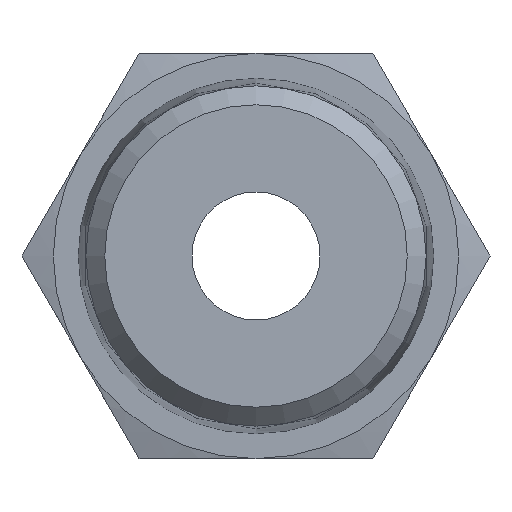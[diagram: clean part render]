
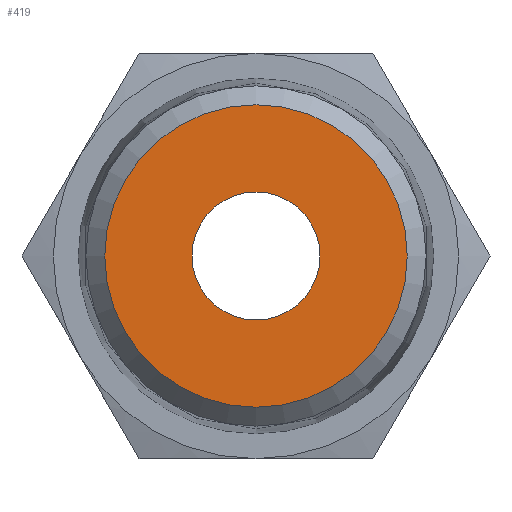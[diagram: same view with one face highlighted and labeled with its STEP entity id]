
A CAD part, left-side view. The second image highlights one B-rep face of the part: STEP entity #419.
In plain terms, the highlighted planar face has unit normal (-1, 0, 0).
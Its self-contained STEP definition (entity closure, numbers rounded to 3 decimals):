
#37=PLANE('',#476);
#59=CIRCLE('',#477,7.09);
#60=CIRCLE('',#478,3.);
#108=ORIENTED_EDGE('',*,*,#218,.F.);
#109=ORIENTED_EDGE('',*,*,#219,.T.);
#218=EDGE_CURVE('',#261,#261,#59,.T.);
#219=EDGE_CURVE('',#262,#262,#60,.T.);
#261=VERTEX_POINT('',#778);
#262=VERTEX_POINT('',#780);
#310=EDGE_LOOP('',(#108));
#311=EDGE_LOOP('',(#109));
#356=FACE_BOUND('',#310,.T.);
#357=FACE_BOUND('',#311,.T.);
#419=ADVANCED_FACE('',(#356,#357),#37,.F.);
#476=AXIS2_PLACEMENT_3D('',#776,#559,#560);
#477=AXIS2_PLACEMENT_3D('',#777,#561,#562);
#478=AXIS2_PLACEMENT_3D('',#779,#563,#564);
#559=DIRECTION('',(1.,0.,0.));
#560=DIRECTION('',(0.,0.,-1.));
#561=DIRECTION('',(1.,0.,0.));
#562=DIRECTION('',(0.,0.,-1.));
#563=DIRECTION('',(1.,0.,0.));
#564=DIRECTION('',(0.,0.,-1.));
#776=CARTESIAN_POINT('',(0.,0.,0.));
#777=CARTESIAN_POINT('',(0.,0.,0.));
#778=CARTESIAN_POINT('',(0.,0.,-7.09));
#779=CARTESIAN_POINT('',(0.,0.,0.));
#780=CARTESIAN_POINT('',(0.,0.,-3.));
